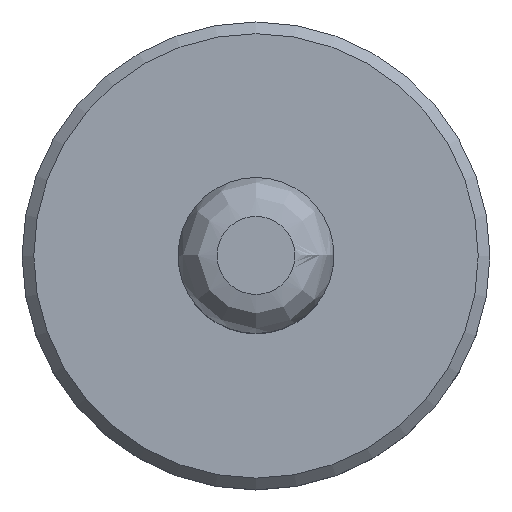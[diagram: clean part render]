
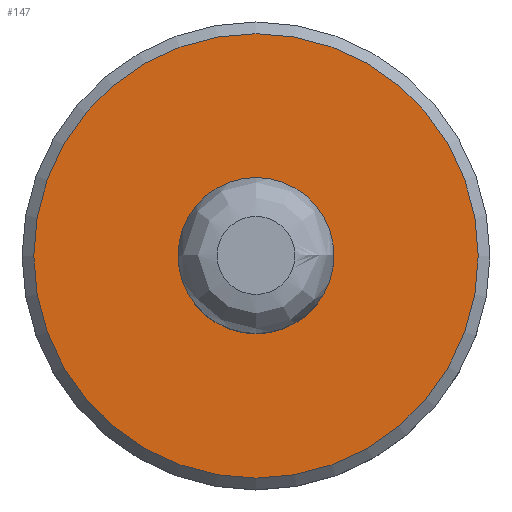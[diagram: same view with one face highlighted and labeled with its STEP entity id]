
A CAD part, top view. The second image highlights one B-rep face of the part: STEP entity #147.
In plain terms, the highlighted planar face has unit normal (0, 0, 1).
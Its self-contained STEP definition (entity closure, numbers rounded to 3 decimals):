
#132=PLANE('',#457);
#147=ADVANCED_FACE('',(#178,#179),#132,.T.);
#178=FACE_BOUND('',#204,.T.);
#179=FACE_BOUND('',#205,.T.);
#204=EDGE_LOOP('',(#259));
#205=EDGE_LOOP('',(#260));
#259=ORIENTED_EDGE('',*,*,#362,.T.);
#260=ORIENTED_EDGE('',*,*,#363,.F.);
#333=VERTEX_POINT('',#631);
#334=VERTEX_POINT('',#633);
#362=EDGE_CURVE('',#333,#333,#432,.T.);
#363=EDGE_CURVE('',#334,#334,#433,.T.);
#432=CIRCLE('',#455,5.7);
#433=CIRCLE('',#456,2.);
#455=AXIS2_PLACEMENT_3D('',#630,#520,#521);
#456=AXIS2_PLACEMENT_3D('',#632,#522,#523);
#457=AXIS2_PLACEMENT_3D('',#634,#524,#525);
#520=DIRECTION('',(0.,0.,1.));
#521=DIRECTION('',(1.,0.,0.));
#522=DIRECTION('',(0.,0.,1.));
#523=DIRECTION('',(1.,0.,0.));
#524=DIRECTION('',(0.,0.,1.));
#525=DIRECTION('',(1.,0.,0.));
#630=CARTESIAN_POINT('',(0.,0.,51.8));
#631=CARTESIAN_POINT('',(5.7,0.,51.8));
#632=CARTESIAN_POINT('',(0.,0.,51.8));
#633=CARTESIAN_POINT('',(2.,0.,51.8));
#634=CARTESIAN_POINT('',(0.,0.,51.8));
